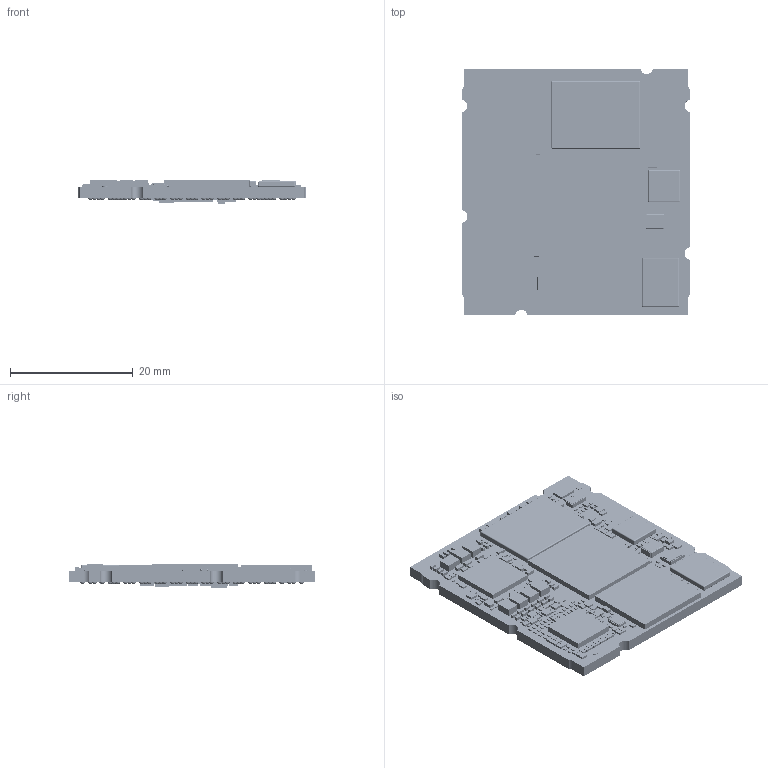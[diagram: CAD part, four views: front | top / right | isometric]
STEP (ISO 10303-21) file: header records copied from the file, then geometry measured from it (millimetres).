
FILE_DESCRIPTION(('STEP AP214'),'1');
FILE_NAME('1518-6_BoardAndModels.step','2023-06-30T05:38:56',(' '),(' '),'Spatial InterOp 3D','XD3DPlugin XRACreate',' ');
FILE_SCHEMA(('automotive_design'));
Length unit declared in the file: millimetre
Products named in the file (222): Submodel-N:\GROUP\DEVELOP\HARDWARE\PCL-069_phyCORE-i.MX8M_Mini\Design\1518.6\001\PCL-069\Board1_PCB\Layout\3D\Input_S\MLP2520S1R0S.xtd; MLP2520S1R0S; Submodel-IND1673_part_simplified_L-TFM252012; DesignRootModel; Submodel-N:\GROUP\DEVELOP\HARDWARE\PCL-069_phyCORE-i.MX8M_Mini\Design\1518.6\001\PCL-069\Board1_PCB\Layout\3D\Input_S\C0402C270F5GAC_0.xtd; C0402C270F5GAC_0; Submodel-CAP2013_part_simplified_0402-1200x600um; Submodel-N:\GROUP\DEVELOP\HARDWARE\PCL-069_phyCORE-i.MX8M_Mini\Design\1518.6\001\PCL-069\Board1_PCB\Layout\3D\Input_S\DIODE1713.xtd; DIODE1713; Submodel-DIODE1713_part_simplified_0201-WLL; Submodel-N:\GROUP\DEVELOP\HARDWARE\PCL-069_phyCORE-i.MX8M_Mini\Design\1518.6\001\PCL-069\Board1_PCB\Layout\3D\Input_S\CRCW020110R7JNEF.xtd; CRCW020110R7JNEF; Submodel-RES5653_part_simplified_0201; Submodel-N:\GROUP\DEVELOP\HARDWARE\PCL-069_phyCORE-i.MX8M_Mini\Design\1518.6\001\PCL-069\Board1_PCB\Layout\3D\Input_S\REMOVE_MECH243.xtd; REMOVE_MECH243; Submodel-MECH243_part_simplified_Fiducial-square; Submodel-N:\GROUP\DEVELOP\HARDWARE\PCL-069_phyCORE-i.MX8M_Mini\Design\1518.6\001\PCL-069\Board1_PCB\Layout\3D\Input_S\RC0603F1005CS.xtd; RC0603F1005CS; Submodel-RES5673_part_simplified_0201; Submodel-N:\GROUP\DEVELOP\HARDWARE\PCL-069_phyCORE-i.MX8M_Mini\Design\1518.6\001\PCL-069\Board1_PCB\Layout\3D\Input_S\xd_qfn_47.xtd; xd_qfn_47; Submodel-XCVR1233_part_simplified_QFNQ49-50-EP4_comma_2x4_comma_2-C3; Submodel-RES5723_part_simplified_0201; Submodel-RES5803_part_simplified_0201; Submodel-RES5773_part_simplified_0201; Submodel-N:\GROUP\DEVELOP\HARDWARE\PCL-069_phyCORE-i.MX8M_Mini\Design\1518.6\001\PCL-069\Board1_PCB\Layout\3D\Input_S\TRANSISTOR932.xtd; TRANSISTOR932; Submodel-TRANSISTOR932_part_simplified_DFN-0806-3; Submodel-N:\GROUP\DEVELOP\HARDWARE\PCL-069_phyCORE-i.MX8M_Mini\Design\1518.6\001\PCL-069\Board1_PCB\Layout\3D\Input_S\REMOVE_MECH233.xtd; REMOVE_MECH233; Submodel-MECH233_part_simplified_Fiducial-round; Submodel-N:\GROUP\DEVELOP\HARDWARE\PCL-069_phyCORE-i.MX8M_Mini\Design\1518.6\001\PCL-069\Board1_PCB\Layout\3D\Input_S\xd_qfn_54.xtd; xd_qfn_54; Submodel-SWREG1233_part_simplified_QFNQ56-50-EP5_comma_1x4_comma_96-C3; Submodel-RES6433_part_simplified_0201; Submodel-N:\GROUP\DEVELOP\HARDWARE\PCL-069_phyCORE-i.MX8M_Mini\Design\1518.6\001\PCL-069\Board1_PCB\Layout\3D\Input_S\OSC883.xtd; OSC883; Submodel-OSC883_part_simplified_QQ-JO32-C3; Submodel-RES5953_part_simplified_0201; Submodel-N:\GROUP\DEVELOP\HARDWARE\PCL-069_phyCORE-i.MX8M_Mini\Design\1518.6\001\PCL-069\Board1_PCB\Layout\3D\Input_S\xd_xtal_4t_15.xtd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
Assembly tree (624 placements, depth 6):
  1518-6_BoardAndModels
    DesignRootModel
      Submodel-IND1673_part_simplified_L-TFM252012  x7
        Submodel-N:\GROUP\DEVELOP\HARDWARE\PCL-069_phyCORE-i.MX8M_Mini\Design\1518.6\001\PCL-069\Board1_PCB\Layout\3D\Input_S\MLP2520S1R0S.xtd
          MLP2520S1R0S
      Submodel-CAP2013_part_simplified_0402-1200x600um  x51
        Submodel-N:\GROUP\DEVELOP\HARDWARE\PCL-069_phyCORE-i.MX8M_Mini\Design\1518.6\001\PCL-069\Board1_PCB\Layout\3D\Input_S\C0402C270F5GAC_0.xtd
          C0402C270F5GAC_0
      Submodel-DIODE1713_part_simplified_0201-WLL  x5
        Submodel-N:\GROUP\DEVELOP\HARDWARE\PCL-069_phyCORE-i.MX8M_Mini\Design\1518.6\001\PCL-069\Board1_PCB\Layout\3D\Input_S\DIODE1713.xtd
          DIODE1713
      Submodel-RES5653_part_simplified_0201  x15
        Submodel-N:\GROUP\DEVELOP\HARDWARE\PCL-069_phyCORE-i.MX8M_Mini\Design\1518.6\001\PCL-069\Board1_PCB\Layout\3D\Input_S\CRCW020110R7JNEF.xtd
          CRCW020110R7JNEF
      Submodel-MECH243_part_simplified_Fiducial-square  x2
        Submodel-N:\GROUP\DEVELOP\HARDWARE\PCL-069_phyCORE-i.MX8M_Mini\Design\1518.6\001\PCL-069\Board1_PCB\Layout\3D\Input_S\REMOVE_MECH243.xtd
          REMOVE_MECH243
      Submodel-RES5673_part_simplified_0201  x75
        Submodel-N:\GROUP\DEVELOP\HARDWARE\PCL-069_phyCORE-i.MX8M_Mini\Design\1518.6\001\PCL-069\Board1_PCB\Layout\3D\Input_S\RC0603F1005CS.xtd
          RC0603F1005CS
      Submodel-XCVR1233_part_simplified_QFNQ49-50-EP4_comma_2x4_comma_2-C3
        Submodel-N:\GROUP\DEVELOP\HARDWARE\PCL-069_phyCORE-i.MX8M_Mini\Design\1518.6\001\PCL-069\Board1_PCB\Layout\3D\Input_S\xd_qfn_47.xtd
          xd_qfn_47
      Submodel-RES5723_part_simplified_0201  x3
        Submodel-N:\GROUP\DEVELOP\HARDWARE\PCL-069_phyCORE-i.MX8M_Mini\Design\1518.6\001\PCL-069\Board1_PCB\Layout\3D\Input_S\RC0603F1005CS.xtd
          RC0603F1005CS
      Submodel-RES5803_part_simplified_0201  x23
        Submodel-N:\GROUP\DEVELOP\HARDWARE\PCL-069_phyCORE-i.MX8M_Mini\Design\1518.6\001\PCL-069\Board1_PCB\Layout\3D\Input_S\RC0603F1005CS.xtd
          RC0603F1005CS
      Submodel-RES5773_part_simplified_0201  x13
        Submodel-N:\GROUP\DEVELOP\HARDWARE\PCL-069_phyCORE-i.MX8M_Mini\Design\1518.6\001\PCL-069\Board1_PCB\Layout\3D\Input_S\RC0603F1005CS.xtd
          RC0603F1005CS
      Submodel-TRANSISTOR932_part_simplified_DFN-0806-3  x5
        Submodel-N:\GROUP\DEVELOP\HARDWARE\PCL-069_phyCORE-i.MX8M_Mini\Design\1518.6\001\PCL-069\Board1_PCB\Layout\3D\Input_S\TRANSISTOR932.xtd
          TRANSISTOR932
      Submodel-MECH233_part_simplified_Fiducial-round  x2
        Submodel-N:\GROUP\DEVELOP\HARDWARE\PCL-069_phyCORE-i.MX8M_Mini\Design\1518.6\001\PCL-069\Board1_PCB\Layout\3D\Input_S\REMOVE_MECH233.xtd
          REMOVE_MECH233
      Submodel-SWREG1233_part_simplified_QFNQ56-50-EP5_comma_1x4_comma_96-C3
        Submodel-N:\GROUP\DEVELOP\HARDWARE\PCL-069_phyCORE-i.MX8M_Mini\Design\1518.6\001\PCL-069\Board1_PCB\Layout\3D\Input_S\xd_qfn_54.xtd
          xd_qfn_54
      Submodel-RES6433_part_simplified_0201  x2
        Submodel-N:\GROUP\DEVELOP\HARDWARE\PCL-069_phyCORE-i.MX8M_Mini\Design\1518.6\001\PCL-069\Board1_PCB\Layout\3D\Input_S\CRCW020110R7JNEF.xtd
          CRCW020110R7JNEF
      Submodel-OSC883_part_simplified_QQ-JO32-C3
        Submodel-N:\GROUP\DEVELOP\HARDWARE\PCL-069_phyCORE-i.MX8M_Mini\Design\1518.6\001\PCL-069\Board1_PCB\Layout\3D\Input_S\OSC883.xtd
          OSC883
      Submodel-RES5953_part_simplified_0201  x2
        Submodel-N:\GROUP\DEVELOP\HARDWARE\PCL-069_phyCORE-i.MX8M_Mini\Design\1518.6\001\PCL-069\Board1_PCB\Layout\3D\Input_S\RC0603F1005CS.xtd
          RC0603F1005CS
      Submodel-OSC723_part_simplified_QQ-JXS32-C3
        Submodel-N:\GROUP\DEVELOP\HARDWARE\PCL-069_phyCORE-i.MX8M_Mini\Design\1518.6\001\PCL-069\Board1_PCB\Layout\3D\Input_S\xd_xtal_4t_15.xtd
          xd_xtal_4t_15
      Submodel-CAP3043_part_simplified_0201
        Submodel-N:\GROUP\DEVELOP\HARDWARE\PCL-069_phyCORE-i.MX8M_Mini\Design\1518.6\001\PCL-069\Board1_PCB\Layout\3D\Input_S\0201YC101KAZ2A.xtd
          0201YC101KAZ2A
      Submodel-CAP3313_part_simplified_0201  x4
        Submodel-N:\GROUP\DEVELOP\HARDWARE\PCL-069_phyCORE-i.MX8M_Mini\Design\1518.6\001\PCL-069\Board1_PCB\Layout\3D\Input_S\0201YC101KAZ2A.xtd
          0201YC101KAZ2A
      Submodel-CAP3293_part_simplified_0201  x2
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Bounding box: 37 x 40 x 4.06 mm (x, y, z)
Volume: 3491.5 mm3; surface area: 7025.5 mm2
Topology: 860 solids, 860 shells, 6580 faces, 16098 edges, 10690 vertices
Faces by surface type: plane 4521, sphere 1698, cylinder 308, bspline 37, torus 16
Entity records: 149997 total; most frequent: DIRECTION 19713, CARTESIAN_POINT 19290, ORIENTED_EDGE 14934, AXIS2_PLACEMENT_3D 7955, EDGE_CURVE 7467, STYLED_ITEM 5905, PRESENTATION_STYLE_ASSIGNMENT 5905, COLOUR_RGB 5905
